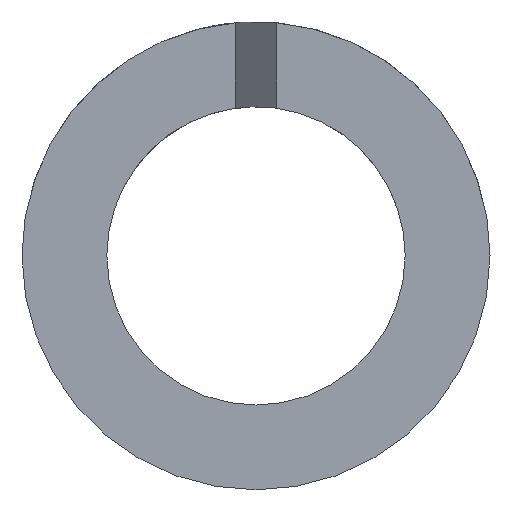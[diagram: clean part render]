
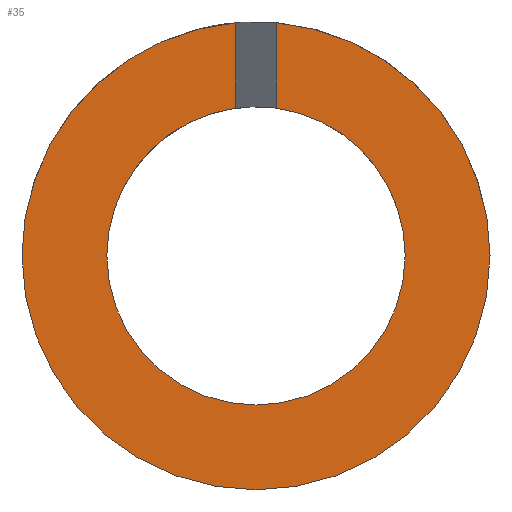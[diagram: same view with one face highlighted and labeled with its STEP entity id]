
A CAD part, left-side view. The second image highlights one B-rep face of the part: STEP entity #35.
In plain terms, the highlighted planar face has unit normal (-1, 0, 0).
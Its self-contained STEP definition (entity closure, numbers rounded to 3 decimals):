
#27=PLANE('',#213);
#35=ADVANCED_FACE('',(#45),#27,.T.);
#45=FACE_OUTER_BOUND('',#55,.F.);
#55=EDGE_LOOP('',(#77,#78,#79,#80,#81,#82,#83,#84));
#77=ORIENTED_EDGE('',*,*,#166,.F.);
#78=ORIENTED_EDGE('',*,*,#158,.F.);
#79=ORIENTED_EDGE('',*,*,#146,.F.);
#80=ORIENTED_EDGE('',*,*,#154,.T.);
#81=ORIENTED_EDGE('',*,*,#145,.T.);
#82=ORIENTED_EDGE('',*,*,#155,.T.);
#83=ORIENTED_EDGE('',*,*,#163,.T.);
#84=ORIENTED_EDGE('',*,*,#153,.T.);
#125=LINE('',#323,#133);
#126=LINE('',#324,#134);
#133=VECTOR('',#232,2.918);
#134=VECTOR('',#233,2.918);
#145=EDGE_CURVE('',#190,#189,#169,.T.);
#146=EDGE_CURVE('',#188,#187,#170,.T.);
#153=EDGE_CURVE('',#183,#186,#125,.T.);
#154=EDGE_CURVE('',#188,#190,#126,.T.);
#155=EDGE_CURVE('',#189,#182,#171,.T.);
#158=EDGE_CURVE('',#187,#179,#174,.T.);
#163=EDGE_CURVE('',#182,#183,#175,.T.);
#166=EDGE_CURVE('',#179,#186,#178,.T.);
#169=CIRCLE('',#199,5.1);
#170=CIRCLE('',#200,8.);
#171=CIRCLE('',#201,5.1);
#174=CIRCLE('',#204,8.);
#175=CIRCLE('',#205,5.1);
#178=CIRCLE('',#208,8.);
#179=VERTEX_POINT('',#277);
#182=VERTEX_POINT('',#280);
#183=VERTEX_POINT('',#281);
#186=VERTEX_POINT('',#284);
#187=VERTEX_POINT('',#285);
#188=VERTEX_POINT('',#286);
#189=VERTEX_POINT('',#287);
#190=VERTEX_POINT('',#288);
#199=AXIS2_PLACEMENT_3D('',#295,#226,#227);
#200=AXIS2_PLACEMENT_3D('',#296,#228,#229);
#201=AXIS2_PLACEMENT_3D('',#325,#234,#235);
#204=AXIS2_PLACEMENT_3D('',#328,#240,#241);
#205=AXIS2_PLACEMENT_3D('',#333,#246,#247);
#208=AXIS2_PLACEMENT_3D('',#336,#252,#253);
#213=AXIS2_PLACEMENT_3D('',#341,#262,#263);
#226=DIRECTION('',(-1.,0.,0.));
#227=DIRECTION('',(0.,0.139,0.99));
#228=DIRECTION('',(-1.,0.,0.));
#229=DIRECTION('',(0.,0.088,0.996));
#232=DIRECTION('',(0.,0.,1.));
#233=DIRECTION('',(0.,0.,-1.));
#234=DIRECTION('',(-1.,0.,0.));
#235=DIRECTION('',(0.,1.,0.));
#240=DIRECTION('',(-1.,0.,0.));
#241=DIRECTION('',(0.,1.,0.));
#246=DIRECTION('',(-1.,0.,0.));
#247=DIRECTION('',(0.,-1.,0.));
#252=DIRECTION('',(-1.,0.,0.));
#253=DIRECTION('',(0.,-1.,0.));
#262=DIRECTION('',(-1.,0.,0.));
#263=DIRECTION('',(0.,0.,1.));
#277=CARTESIAN_POINT('',(1114.375,411.252,416.874));
#280=CARTESIAN_POINT('',(1114.375,414.152,416.874));
#281=CARTESIAN_POINT('',(1114.375,418.545,421.925));
#284=CARTESIAN_POINT('',(1114.375,418.545,424.842));
#285=CARTESIAN_POINT('',(1114.375,427.252,416.874));
#286=CARTESIAN_POINT('',(1114.375,419.959,424.842));
#287=CARTESIAN_POINT('',(1114.375,424.352,416.874));
#288=CARTESIAN_POINT('',(1114.375,419.959,421.925));
#295=CARTESIAN_POINT('',(1114.375,419.252,416.874));
#296=CARTESIAN_POINT('',(1114.375,419.252,416.874));
#323=CARTESIAN_POINT('',(1114.375,418.545,421.925));
#324=CARTESIAN_POINT('',(1114.375,419.959,424.842));
#325=CARTESIAN_POINT('',(1114.375,419.252,416.874));
#328=CARTESIAN_POINT('',(1114.375,419.252,416.874));
#333=CARTESIAN_POINT('',(1114.375,419.252,416.874));
#336=CARTESIAN_POINT('',(1114.375,419.252,416.874));
#341=CARTESIAN_POINT('',(1114.375,411.092,408.714));
